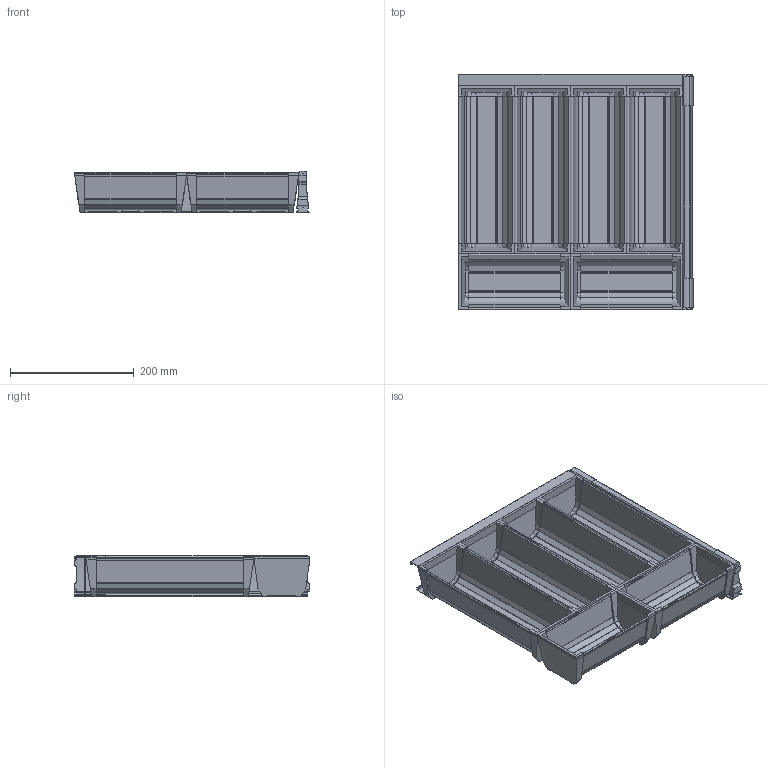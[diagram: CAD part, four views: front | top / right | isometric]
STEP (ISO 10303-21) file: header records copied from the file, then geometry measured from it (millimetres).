
FILE_DESCRIPTION (( 'STEP AP214' ), '1' );
FILE_NAME ('Inoxsys_B4_NL-400.STEP', '2010-08-17T11:35:53', ( 'grass' ), ( '' ), 'SwSTEP 2.0', 'SolidWorks 2010', '' );
FILE_SCHEMA (( 'AUTOMOTIVE_DESIGN' ));
Length unit declared in the file: millimetre
Products named in the file (1): Inoxsys_B4_NL-400
Bounding box: 379.4 x 381 x 67.5 mm (x, y, z)
Volume: 780663.5 mm3; surface area: 787505.3 mm2
Topology: 8 solids, 8 shells, 813 faces, 2355 edges, 1570 vertices
Faces by surface type: plane 551, cylinder 262
Entity records: 35857 total; most frequent: CARTESIAN_POINT 5021, ORIENTED_EDGE 4710, DIRECTION 4431, EDGE_CURVE 2355, VECTOR 1791, LINE 1791, VERTEX_POINT 1570, AXIS2_PLACEMENT_3D 1320
